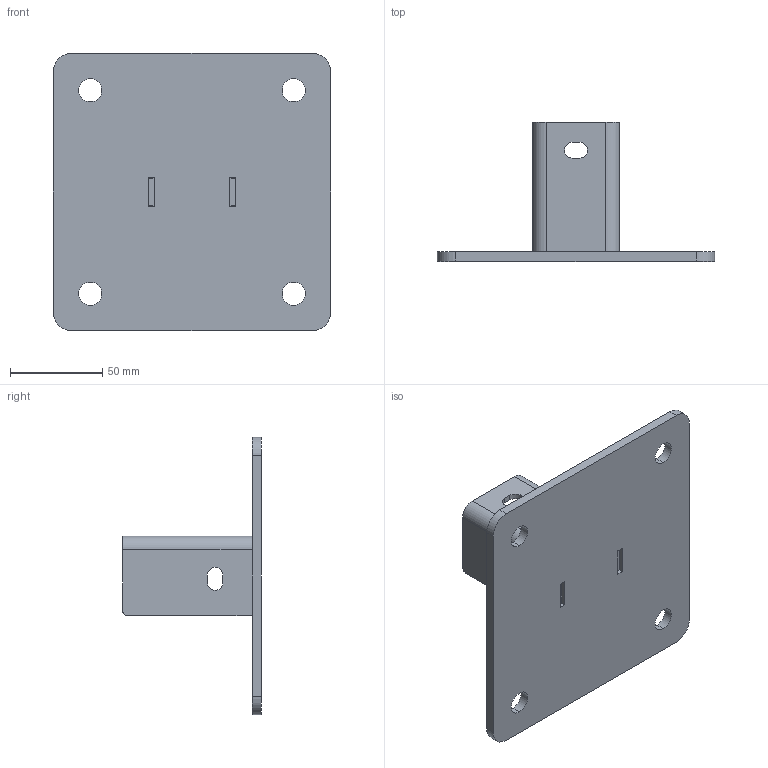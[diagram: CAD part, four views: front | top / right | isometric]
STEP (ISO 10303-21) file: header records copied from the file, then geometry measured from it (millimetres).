
FILE_DESCRIPTION (( 'STEP AP214' ), '1' );
FILE_NAME ('1G.1515.FPG.STEP', '2025-06-12T19:28:05', ( '' ), ( '' ), 'SwSTEP 2.0', 'SolidWorks 2023', '' );
FILE_SCHEMA (( 'AUTOMOTIVE_DESIGN' ));
Length unit declared in the file: millimetre
Products named in the file (3): 1G.1515.FPG-40x40 Upright; 1G.1515.FPG40x40 Foot Pate; 1G.1515.FPG
Assembly tree (2 placements, depth 2):
  1G.1515.FPG
    1G.1515.FPG40x40 Foot Pate
    1G.1515.FPG-40x40 Upright
Bounding box: 150 x 75 x 150 mm (x, y, z)
Volume: 134140.3 mm3; surface area: 65912.8 mm2
Topology: 2 solids, 2 shells, 73 faces, 191 edges, 122 vertices
Faces by surface type: plane 46, cylinder 27
Entity records: 2355 total; most frequent: DIRECTION 401, CARTESIAN_POINT 391, ORIENTED_EDGE 382, EDGE_CURVE 191, LINE 137, VECTOR 137, AXIS2_PLACEMENT_3D 132, VERTEX_POINT 122
